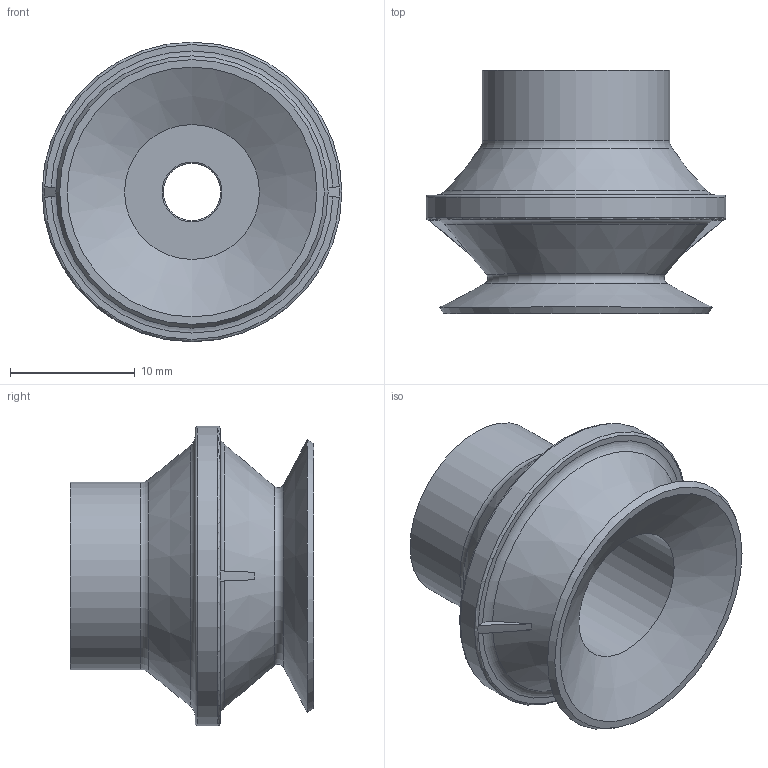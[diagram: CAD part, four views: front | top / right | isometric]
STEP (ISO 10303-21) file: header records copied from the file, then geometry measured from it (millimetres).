
FILE_DESCRIPTION(('STEP AP203'),'1');
FILE_NAME('_3D.stp','2025-02-13T06:45:41',(' '),(' '),'Spatial InterOp 3D',' ',' ');
FILE_SCHEMA(('CONFIG_CONTROL_DESIGN'));
Length unit declared in the file: millimetre
Products named in the file (1): 1
Bounding box: 24 x 19.5 x 24 mm (x, y, z)
Volume: 3259.2 mm3; surface area: 2531.7 mm2
Topology: 1 solids, 1 shells, 30 faces, 67 edges, 41 vertices
Faces by surface type: plane 10, torus 9, cone 7, cylinder 4
Full cylindrical faces by diameter (mm): 4.6 x1, 10.8 x1, 15 x1, 24 x1
Entity records: 750 total; most frequent: DIRECTION 140, CARTESIAN_POINT 111, ORIENTED_EDGE 90, AXIS2_PLACEMENT_3D 64, EDGE_LOOP 50, EDGE_CURVE 45, FACE_OUTER_BOUND 41, VERTEX_POINT 35
